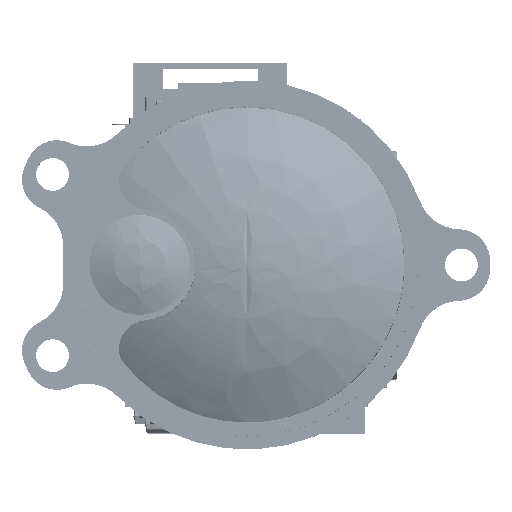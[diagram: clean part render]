
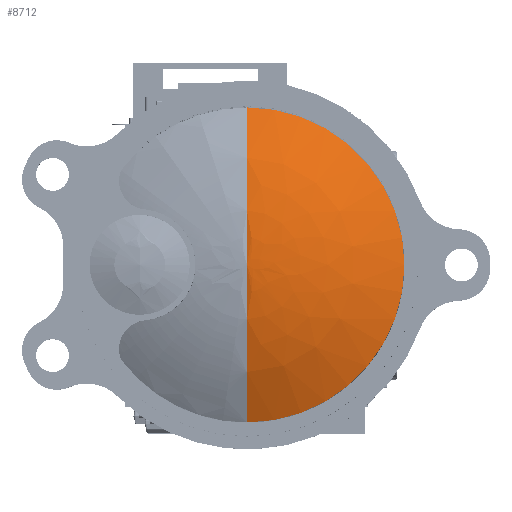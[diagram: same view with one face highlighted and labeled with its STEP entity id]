
A CAD part, top view. The second image highlights one B-rep face of the part: STEP entity #8712.
In plain terms, the highlighted face is a revolution surface.
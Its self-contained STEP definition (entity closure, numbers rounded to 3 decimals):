
#8549=CARTESIAN_POINT('',(0.,0.,2.726));
#8550=DIRECTION('',(0.,0.,-1.));
#8551=DIRECTION('',(0.,-1.,0.));
#8552=AXIS2_PLACEMENT_3D('',#8549,#8550,#8551);
#8638=CARTESIAN_POINT('',(0.,11.017,2.726));
#8639=CARTESIAN_POINT('',(0.,10.195,2.309));
#8640=CARTESIAN_POINT('',(0.,8.908,1.735));
#8641=CARTESIAN_POINT('',(0.,7.128,1.11));
#8642=CARTESIAN_POINT('',(0.,5.749,0.714));
#8643=CARTESIAN_POINT('',(0.,4.369,0.406));
#8644=CARTESIAN_POINT('',(0.,2.989,0.182));
#8645=CARTESIAN_POINT('',(0.,1.533,0.035));
#8646=CARTESIAN_POINT('',(0.,0.536,0.));
#8647=CARTESIAN_POINT('',(0.,0.,0.));
#8649=CARTESIAN_POINT('',(0.,-11.017,2.726));
#8650=CARTESIAN_POINT('',(0.,-10.195,2.309));
#8651=CARTESIAN_POINT('',(0.,-8.908,
1.735));
#8652=CARTESIAN_POINT('',(0.,-7.128,1.11));
#8653=CARTESIAN_POINT('',(0.,-5.749,0.714));
#8654=CARTESIAN_POINT('',(0.,-4.369,0.406));
#8655=CARTESIAN_POINT('',(0.,-2.989,0.182));
#8656=CARTESIAN_POINT('',(0.,-1.533,0.035));
#8657=CARTESIAN_POINT('',(0.,-0.536,0.));
#8658=CARTESIAN_POINT('',(0.,0.,0.));
#8673=VERTEX_POINT('',#8649);
#8674=VERTEX_POINT('',#8658);
#8675=VERTEX_POINT('',#8638);
#8688=CARTESIAN_POINT('',(0.,11.119,2.778));
#8689=CARTESIAN_POINT('',(0.,11.085,2.76));
#8690=CARTESIAN_POINT('',(0.,10.23,2.324));
#8691=CARTESIAN_POINT('',(0.,8.908,1.735));
#8692=CARTESIAN_POINT('',(0.,7.128,1.11));
#8693=CARTESIAN_POINT('',(0.,5.749,0.714));
#8694=CARTESIAN_POINT('',(0.,4.369,0.406));
#8695=CARTESIAN_POINT('',(0.,2.989,0.182));
#8696=CARTESIAN_POINT('',(0.,1.533,0.035));
#8697=CARTESIAN_POINT('',(0.,0.536,0.));
#8698=CARTESIAN_POINT('',(0.,0.,0.));
#8700=CARTESIAN_POINT('',(0.,0.,0.856));
#8701=DIRECTION('',(0.,0.,-1.));
#8702=AXIS1_PLACEMENT('',#8700,#8701);
#8703=SURFACE_OF_REVOLUTION('',#8699,#8702);
#8705=ORIENTED_EDGE('',*,*,#8704,.F.);
#8707=ORIENTED_EDGE('',*,*,#8706,.T.);
#8709=ORIENTED_EDGE('',*,*,#8708,.F.);
#8710=EDGE_LOOP('',(#8705,#8707,#8709));
#8711=FACE_OUTER_BOUND('',#8710,.F.);
#8712=ADVANCED_FACE('',(#8711),#8703,.T.);
#8553=CIRCLE('',#8552,11.017);
#8648=B_SPLINE_CURVE_WITH_KNOTS('',3,(#8638,#8639,#8640,#8641,#8642,#8643,#8644,
#8645,#8646,#8647),.UNSPECIFIED.,.F.,.F.,(4,1,1,1,1,1,1,4),(0.,
0.241,0.369,0.494,0.617,
0.739,0.86,1.),.UNSPECIFIED.);
#8659=B_SPLINE_CURVE_WITH_KNOTS('',3,(#8649,#8650,#8651,#8652,#8653,#8654,#8655,
#8656,#8657,#8658),.UNSPECIFIED.,.F.,.F.,(4,1,1,1,1,1,1,4),(0.,
0.241,0.369,0.494,0.617,
0.739,0.86,1.),.UNSPECIFIED.);
#8699=B_SPLINE_CURVE_WITH_KNOTS('',3,(#8688,#8689,#8690,#8691,#8692,#8693,#8694,
#8695,#8696,#8697,#8698),.UNSPECIFIED.,.F.,.F.,(4,1,1,1,1,1,1,1,4),(0.,
0.01,0.249,0.375,0.499,
0.621,0.741,0.861,1.),.UNSPECIFIED.);
#8704=EDGE_CURVE('',#8673,#8675,#8553,.T.);
#8706=EDGE_CURVE('',#8673,#8674,#8659,.T.);
#8708=EDGE_CURVE('',#8675,#8674,#8648,.T.);
